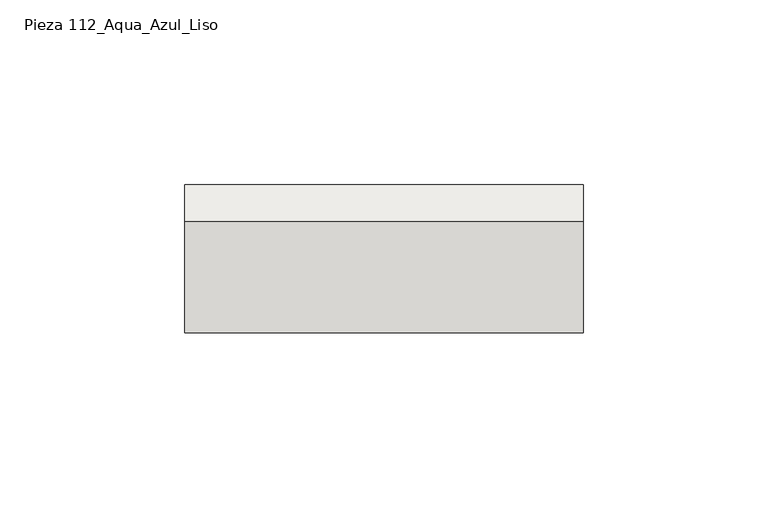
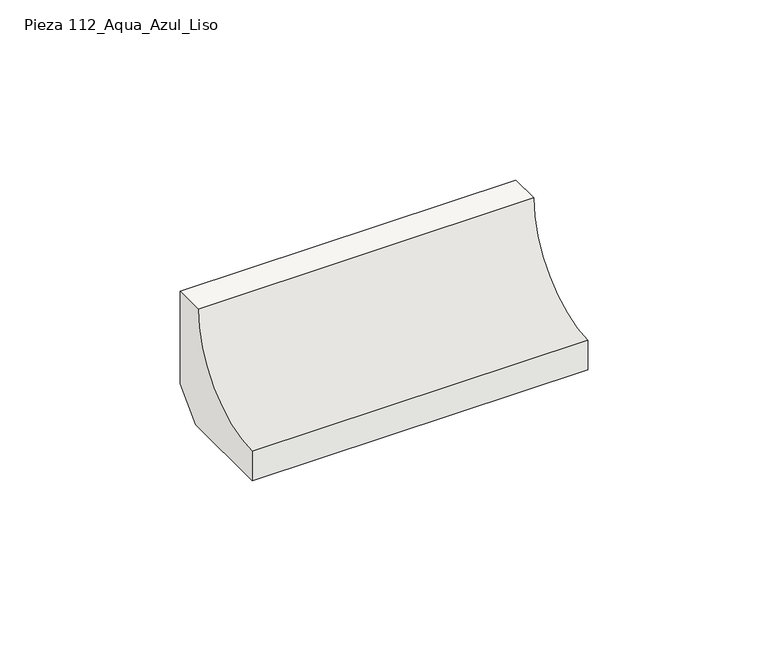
"""IFC4 building model written with IfcOpenShell, lengths in millimetres: slab geometry, ROSA GRES_112 : Pieza 112_Aqua_Azul_Liso."""

from ifc_helpers import new_model, si_unit, point, frame, frame_2d, origin, place, context, project, spatial, polyline, circle_curve, trimmed, segment, composite_curve, outline, extrude, source, transform, mapped, element, save


def pieza_112_aqua_azul_liso_36658c12(model_context):
    return source(origin(), model_context, "Body", "SweptSolid", [
        extrude(outline(composite_curve([segment(polyline([(0.0, 8.7114978), (-8.7114978, 0.0), (-40.0, 0.0), (-40.0, 9.9734114)]), True, "CONTINUOUS"), segment(trimmed(circle_curve(frame_2d((-39.9955547, 39.9955547)), 30.0221435), [point((-40.0, 9.9734114))], [point((-9.9734114, 40.0))], True, "CARTESIAN"), True, "CONTINUOUS"), segment(polyline([(-9.9734114, 40.0), (0.0, 40.0), (0.0, 8.7114978)]), True, "CONTINUOUS")], self_intersect=False)), frame((0.0, 0.0, 0.0), z_axis=(1.0, 0.0, 0.0), x_axis=(0.0, 1.0, 0.0)), (0.0, 0.0, 1.0), 107.6341295),
    ])


if __name__ == "__main__":
    model = new_model("IFC4")
    model_context = context("Model", 3, world=origin())
    ifc_project = project(units=[si_unit("LENGTHUNIT", "METRE", prefix="MILLI")], contexts=[model_context])
    site = spatial("IfcSite", under=ifc_project)
    building = spatial("IfcBuilding", under=site)
    placement = place(None, origin())
    pieza_112_aqua_azul_liso_shape = pieza_112_aqua_azul_liso_36658c12(model_context)
    element("IfcSlab", 1, ObjectType="ROSA GRES_112 : Pieza 112_Aqua_Azul_Liso", at=placement, inside=building, context=model_context, shape_type="MappedRepresentation", body=[
        mapped(pieza_112_aqua_azul_liso_shape, transform((0.0, 0.0, 0.0), x_axis=(1.0, 0.0, 0.0), y_axis=(0.0, 1.0, 0.0), z_axis=(0.0, 0.0, 1.0))),
    ])
    save(model, "model.ifc")
